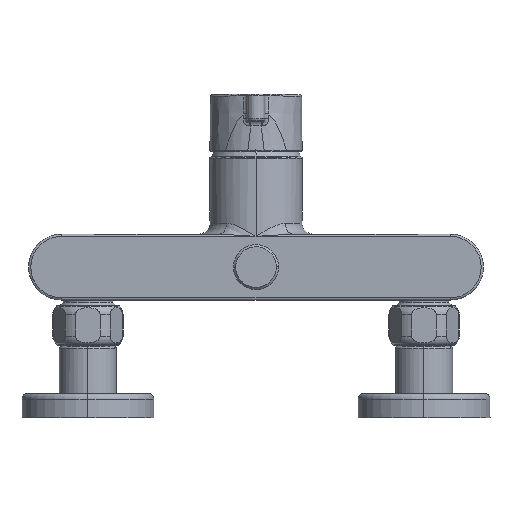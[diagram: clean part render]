
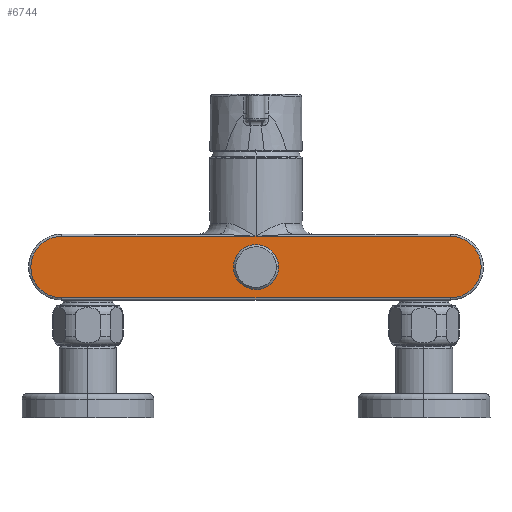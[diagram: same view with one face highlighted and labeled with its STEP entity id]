
A CAD part, front view. The second image highlights one B-rep face of the part: STEP entity #6744.
In plain terms, the highlighted planar face has unit normal (0, -1, 0).
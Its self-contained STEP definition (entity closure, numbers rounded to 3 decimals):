
#1511=DIRECTION('',(1.,0.,0.));
#1512=VECTOR('',#1511,88.5);
#1513=CARTESIAN_POINT('',(0.,-21.,
14.));
#1514=LINE('',#1513,#1512);
#1515=CARTESIAN_POINT('',(88.5,-21.,0.));
#1516=DIRECTION('',(0.,1.,0.));
#1517=DIRECTION('',(0.,0.,1.));
#1518=AXIS2_PLACEMENT_3D('',#1515,#1516,#1517);
#1520=CARTESIAN_POINT('',(88.5,-21.,0.));
#1521=DIRECTION('',(0.,1.,0.));
#1522=DIRECTION('',(0.032,0.,0.999));
#1523=AXIS2_PLACEMENT_3D('',#1520,#1521,#1522);
#1525=CARTESIAN_POINT('',(-88.5,-21.,0.));
#1526=DIRECTION('',(0.,1.,0.));
#1527=DIRECTION('',(0.,0.,-1.));
#1528=AXIS2_PLACEMENT_3D('',#1525,#1526,#1527);
#1530=CARTESIAN_POINT('',(-88.5,-21.,0.));
#1531=DIRECTION('',(0.,1.,0.));
#1532=DIRECTION('',(-0.032,0.,-0.999));
#1533=AXIS2_PLACEMENT_3D('',#1530,#1531,#1532);
#1535=DIRECTION('',(1.,0.,0.));
#1536=VECTOR('',#1535,88.5);
#1537=CARTESIAN_POINT('',(-88.5,-21.,14.));
#1538=LINE('',#1537,#1536);
#1539=CARTESIAN_POINT('',(0.,-21.,0.));
#1540=DIRECTION('',(0.,-1.,0.));
#1541=DIRECTION('',(-0.999,0.,-0.034));
#1542=AXIS2_PLACEMENT_3D('',#1539,#1540,#1541);
#1544=CARTESIAN_POINT('',(0.,-21.,0.));
#1545=DIRECTION('',(0.,-1.,0.));
#1546=DIRECTION('',(0.999,0.,0.034));
#1547=AXIS2_PLACEMENT_3D('',#1544,#1545,#1546);
#2817=DIRECTION('',(1.,0.,0.));
#2818=VECTOR('',#2817,177.);
#2819=CARTESIAN_POINT('',(-88.5,-21.,-14.));
#2820=LINE('',#2819,#2818);
#4732=CARTESIAN_POINT('',(88.948,-21.,13.993));
#4733=CARTESIAN_POINT('',(88.5,-21.,-14.));
#4734=VERTEX_POINT('',#4732);
#4735=VERTEX_POINT('',#4733);
#4736=CARTESIAN_POINT('',(88.5,-21.,14.));
#4737=VERTEX_POINT('',#4736);
#4738=CARTESIAN_POINT('',(0.,-21.,
14.));
#4739=VERTEX_POINT('',#4738);
#4740=CARTESIAN_POINT('',(-88.5,-21.,-14.));
#4741=VERTEX_POINT('',#4740);
#4742=CARTESIAN_POINT('',(-88.948,-21.,-13.993));
#4743=VERTEX_POINT('',#4742);
#4744=CARTESIAN_POINT('',(-88.5,-21.,14.));
#4745=VERTEX_POINT('',#4744);
#4746=CARTESIAN_POINT('',(-10.244,-21.,-0.344));
#4747=CARTESIAN_POINT('',(10.244,-21.,0.344));
#4748=VERTEX_POINT('',#4746);
#4749=VERTEX_POINT('',#4747);
#6719=CARTESIAN_POINT('',(-103.5,-21.,15.));
#6720=DIRECTION('',(0.,-1.,0.));
#6721=DIRECTION('',(0.,0.,-1.));
#6722=AXIS2_PLACEMENT_3D('',#6719,#6720,#6721);
#6723=PLANE('',#6722);
#6725=ORIENTED_EDGE('',*,*,#6724,.T.);
#6726=ORIENTED_EDGE('',*,*,#6709,.T.);
#6727=ORIENTED_EDGE('',*,*,#6707,.T.);
#6729=ORIENTED_EDGE('',*,*,#6728,.F.);
#6731=ORIENTED_EDGE('',*,*,#6730,.T.);
#6733=ORIENTED_EDGE('',*,*,#6732,.T.);
#6735=ORIENTED_EDGE('',*,*,#6734,.T.);
#6736=EDGE_LOOP('',(#6725,#6726,#6727,#6729,#6731,#6733,#6735));
#6737=FACE_OUTER_BOUND('',#6736,.F.);
#6739=ORIENTED_EDGE('',*,*,#6738,.T.);
#6741=ORIENTED_EDGE('',*,*,#6740,.T.);
#6742=EDGE_LOOP('',(#6739,#6741));
#6743=FACE_BOUND('',#6742,.F.);
#6744=ADVANCED_FACE('',(#6737,#6743),#6723,.T.);
#1519=CIRCLE('',#1518,14.);
#1524=CIRCLE('',#1523,14.);
#1529=CIRCLE('',#1528,14.);
#1534=CIRCLE('',#1533,14.);
#1543=CIRCLE('',#1542,10.25);
#1548=CIRCLE('',#1547,10.25);
#6707=EDGE_CURVE('',#4734,#4735,#1524,.T.);
#6709=EDGE_CURVE('',#4737,#4734,#1519,.T.);
#6724=EDGE_CURVE('',#4739,#4737,#1514,.T.);
#6728=EDGE_CURVE('',#4741,#4735,#2820,.T.);
#6730=EDGE_CURVE('',#4741,#4743,#1529,.T.);
#6732=EDGE_CURVE('',#4743,#4745,#1534,.T.);
#6734=EDGE_CURVE('',#4745,#4739,#1538,.T.);
#6738=EDGE_CURVE('',#4748,#4749,#1543,.T.);
#6740=EDGE_CURVE('',#4749,#4748,#1548,.T.);
